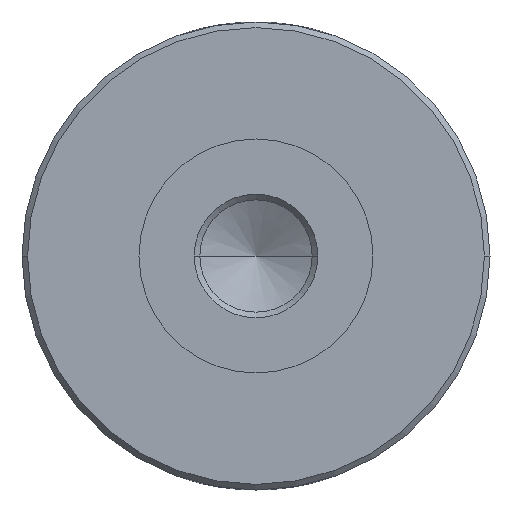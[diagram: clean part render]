
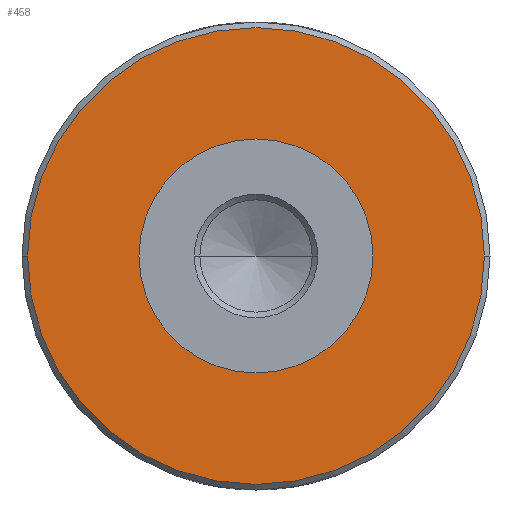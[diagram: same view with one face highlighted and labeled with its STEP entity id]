
A CAD part, front view. The second image highlights one B-rep face of the part: STEP entity #458.
In plain terms, the highlighted planar face has unit normal (0, -1, 0).
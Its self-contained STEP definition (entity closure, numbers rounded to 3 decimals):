
#1=CARTESIAN_POINT('',(0.,-125.,0.));
#2=DIRECTION('',(0.,1.,0.));
#3=DIRECTION('',(1.,0.,0.));
#4=AXIS2_PLACEMENT_3D('',#1,#2,#3);
#6=CARTESIAN_POINT('',(0.,-125.,0.));
#7=DIRECTION('',(0.,1.,0.));
#8=DIRECTION('',(-1.,0.,0.));
#9=AXIS2_PLACEMENT_3D('',#6,#7,#8);
#11=CARTESIAN_POINT('',(0.,-125.,0.));
#12=DIRECTION('',(0.,-1.,0.));
#13=DIRECTION('',(-1.,0.,0.));
#14=AXIS2_PLACEMENT_3D('',#11,#12,#13);
#16=CARTESIAN_POINT('',(0.,-125.,0.));
#17=DIRECTION('',(0.,-1.,0.));
#18=DIRECTION('',(1.,0.,0.));
#19=AXIS2_PLACEMENT_3D('',#16,#17,#18);
#399=CARTESIAN_POINT('',(6.25,-125.,0.));
#400=VERTEX_POINT('',#399);
#401=CARTESIAN_POINT('',(-6.25,-125.,0.));
#402=VERTEX_POINT('',#401);
#417=CARTESIAN_POINT('',(-12.2,-125.,0.));
#418=CARTESIAN_POINT('',(12.2,-125.,0.));
#419=VERTEX_POINT('',#417);
#420=VERTEX_POINT('',#418);
#441=CARTESIAN_POINT('',(0.,-125.,0.));
#442=DIRECTION('',(0.,1.,0.));
#443=DIRECTION('',(1.,0.,0.));
#444=AXIS2_PLACEMENT_3D('',#441,#442,#443);
#445=PLANE('',#444);
#447=ORIENTED_EDGE('',*,*,#446,.F.);
#449=ORIENTED_EDGE('',*,*,#448,.F.);
#450=EDGE_LOOP('',(#447,#449));
#451=FACE_OUTER_BOUND('',#450,.F.);
#453=ORIENTED_EDGE('',*,*,#452,.F.);
#455=ORIENTED_EDGE('',*,*,#454,.F.);
#456=EDGE_LOOP('',(#453,#455));
#457=FACE_BOUND('',#456,.F.);
#458=ADVANCED_FACE('',(#451,#457),#445,.F.);
#5=CIRCLE('',#4,6.25);
#10=CIRCLE('',#9,6.25);
#15=CIRCLE('',#14,12.2);
#20=CIRCLE('',#19,12.2);
#446=EDGE_CURVE('',#419,#420,#15,.T.);
#448=EDGE_CURVE('',#420,#419,#20,.T.);
#452=EDGE_CURVE('',#400,#402,#5,.T.);
#454=EDGE_CURVE('',#402,#400,#10,.T.);
